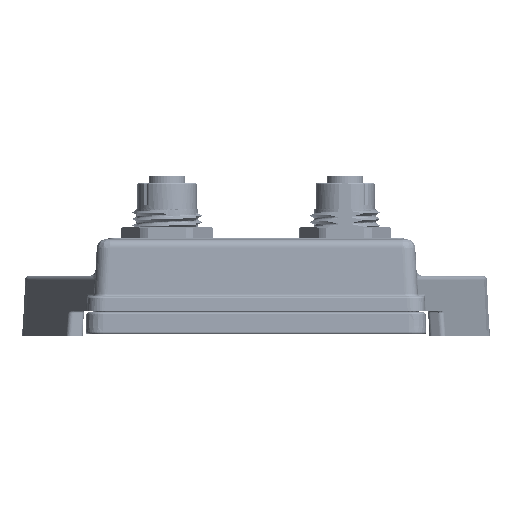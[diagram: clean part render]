
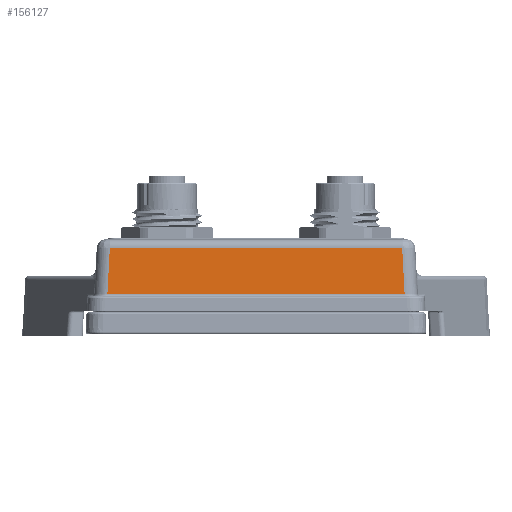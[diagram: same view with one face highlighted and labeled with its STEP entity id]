
A CAD part, front view. The second image highlights one B-rep face of the part: STEP entity #156127.
In plain terms, the highlighted planar face has unit normal (0, -0.999, 0.052) as drawn and (0, 0.052, 0.999) by its records, which use the part's own axes.
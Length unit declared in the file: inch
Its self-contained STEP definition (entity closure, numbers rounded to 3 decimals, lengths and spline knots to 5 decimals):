
#4236 = FACE_OUTER_BOUND ( 'NONE', #228023, .T. ) ;
#4907 = ORIENTED_EDGE ( 'NONE', *, *, #268404, .F. ) ;
#14886 = VECTOR ( 'NONE', #172659, 39.37008 ) ;
#16668 = DIRECTION ( 'NONE',  ( 0.052, 0.997, -0.052 ) ) ;
#16762 = DIRECTION ( 'NONE',  ( -1., 0., 0. ) ) ;
#18037 = LINE ( 'NONE', #22136, #193797 ) ;
#22091 = CARTESIAN_POINT ( 'NONE',  ( 0.7345, 0.71288, 1.43164 ) ) ;
#22136 = CARTESIAN_POINT ( 'NONE',  ( -1.34736, 0.07042, 1.46531 ) ) ;
#31651 = EDGE_CURVE ( 'NONE', #151687, #179192, #228730, .T. ) ;
#35721 = CARTESIAN_POINT ( 'NONE',  ( -1.31369, 0.71288, 1.43164 ) ) ;
#50883 = LINE ( 'NONE', #193128, #14886 ) ;
#51832 = EDGE_CURVE ( 'NONE', #173958, #78437, #209388, .T. ) ;
#65147 = ORIENTED_EDGE ( 'NONE', *, *, #51832, .F. ) ;
#72315 = CARTESIAN_POINT ( 'NONE',  ( 1.31369, 0.71288, 1.43164 ) ) ;
#77476 = EDGE_CURVE ( 'NONE', #179192, #173958, #18037, .T. ) ;
#78437 = VERTEX_POINT ( 'NONE', #72315 ) ;
#92782 = ORIENTED_EDGE ( 'NONE', *, *, #31651, .F. ) ;
#105632 = DIRECTION ( 'NONE',  ( 1., 0., 0. ) ) ;
#109007 = CARTESIAN_POINT ( 'NONE',  ( -1.33563, 0.29425, 1.45358 ) ) ;
#109251 = VECTOR ( 'NONE', #16762, 39.37008 ) ;
#109683 = DIRECTION ( 'NONE',  ( 0., 0.052, 0.999 ) ) ;
#128756 = ORIENTED_EDGE ( 'NONE', *, *, #77476, .F. ) ;
#151687 = VERTEX_POINT ( 'NONE', #268445 ) ;
#153644 = VECTOR ( 'NONE', #105632, 39.37008 ) ;
#156127 = ADVANCED_FACE ( 'NONE', ( #4236 ), #171181, .T. ) ;
#171181 = PLANE ( 'NONE',  #252678 ) ;
#172659 = DIRECTION ( 'NONE',  ( 0.052, -0.997, 0.052 ) ) ;
#173958 = VERTEX_POINT ( 'NONE', #35721 ) ;
#179192 = VERTEX_POINT ( 'NONE', #109007 ) ;
#185201 = CARTESIAN_POINT ( 'NONE',  ( 1.469, 0., 1.469 ) ) ;
#187718 = CARTESIAN_POINT ( 'NONE',  ( 0.7345, 0.29425, 1.45358 ) ) ;
#193128 = CARTESIAN_POINT ( 'NONE',  ( 1.34736, 0.07042, 1.46531 ) ) ;
#193797 = VECTOR ( 'NONE', #16668, 39.37008 ) ;
#209388 = LINE ( 'NONE', #22091, #153644 ) ;
#228023 = EDGE_LOOP ( 'NONE', ( #92782, #4907, #65147, #128756 ) ) ;
#228730 = LINE ( 'NONE', #187718, #109251 ) ;
#252678 = AXIS2_PLACEMENT_3D ( 'NONE', #185201, #109683, #254415 ) ;
#254415 = DIRECTION ( 'NONE',  ( 1., 0., 0. ) ) ;
#268404 = EDGE_CURVE ( 'NONE', #78437, #151687, #50883, .T. ) ;
#268445 = CARTESIAN_POINT ( 'NONE',  ( 1.33563, 0.29425, 1.45358 ) ) ;
